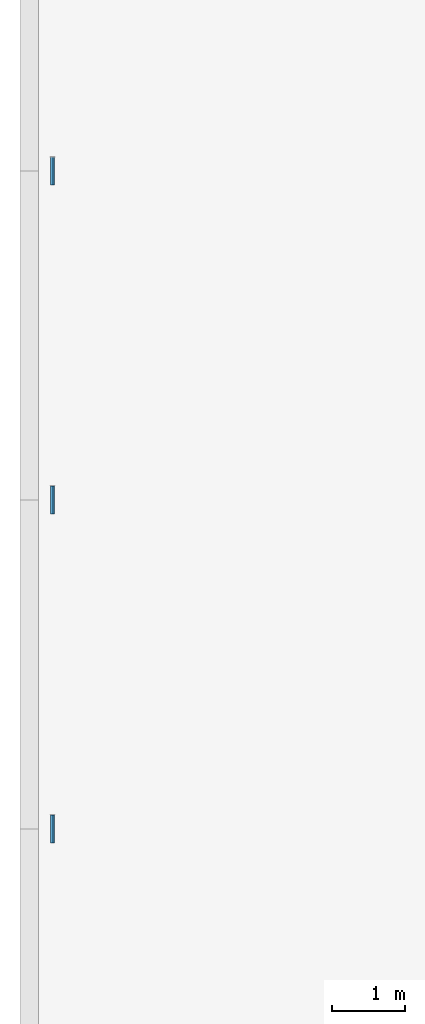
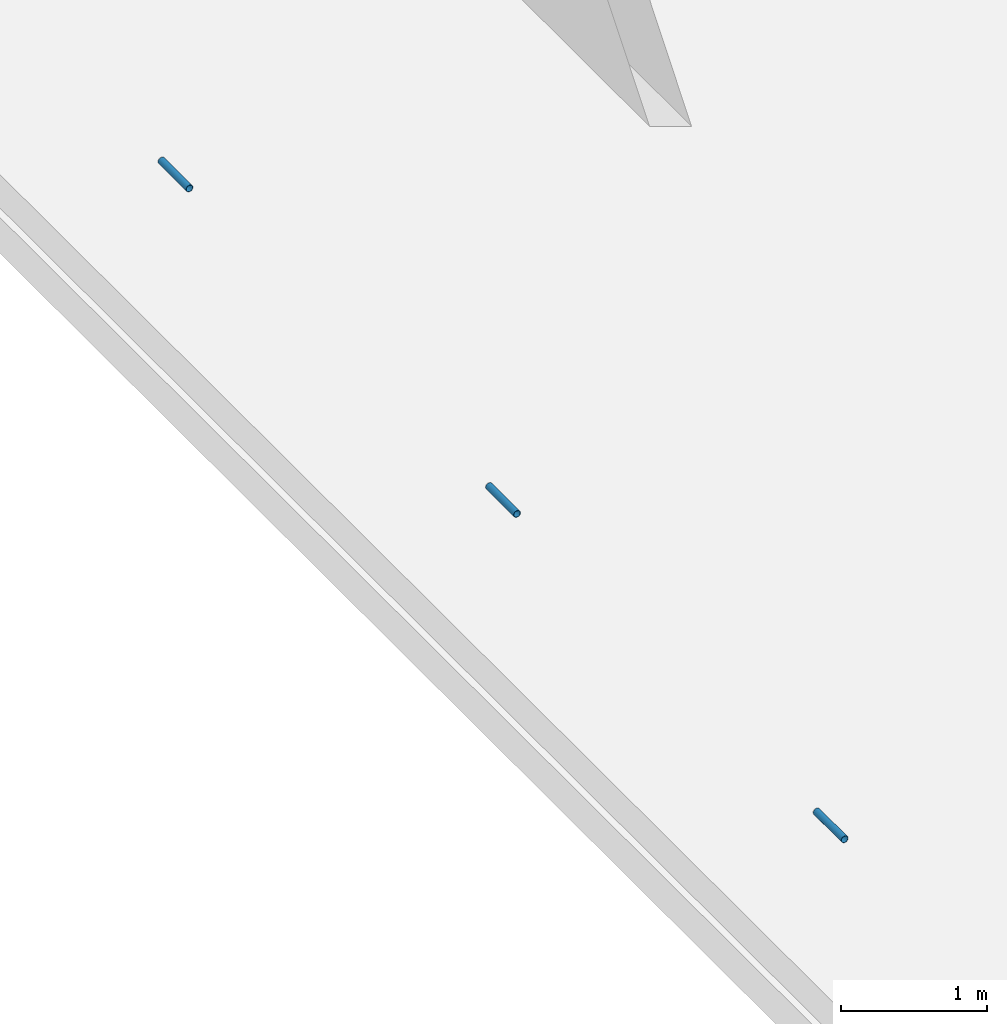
# One storey, part 13 of 230: 3 beams.
"""IFC4X3_ADD2 building model written with IfcOpenShell, lengths in millimetres."""

from ifc_helpers import new_model, si_unit, direction, frame, frame_2d, origin_with_axes, place, context, subcontext, project, spatial, hollow_circle, extrude, material, element, save


model = new_model("IFC4X3_ADD2")

# Units and contexts
model_context = context("Model", 3, precision=1e-05, world=origin_with_axes(), true_north=direction((0.0, 1.0)))
body_context = subcontext(model_context, "Body", "Model", "MODEL_VIEW")
ifc_project = project(units=[si_unit("LENGTHUNIT", "METRE", prefix="MILLI"), si_unit("AREAUNIT", "SQUARE_METRE"), si_unit("VOLUMEUNIT", "CUBIC_METRE"), si_unit("PLANEANGLEUNIT", "RADIAN"), si_unit("TIMEUNIT", "SECOND"), si_unit("MASSUNIT", "GRAM")], contexts=[model_context])

# Site, building, storey
site_placement = place(None, origin_with_axes())
site = spatial("IfcSite", under=ifc_project, at=site_placement, Name="Site", CompositionType="ELEMENT")
building_placement = place(site_placement, origin_with_axes())
building = spatial("IfcBuilding", under=site, at=building_placement, Name="IFC Building Story")
storey_placement = place(building_placement, origin_with_axes())
storey = spatial("IfcBuildingStorey", under=building, at=storey_placement, Name="ETAGE 00 (0)", Elevation=0.0)

# Beams
ifc_material = material(Name="STEEL/Accessory_PVC")
for number, where, z_axis, x_axis, name in (
    (1, (4961.18977737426, 4308.000202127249, 1190.0), (0.0, 1.0, 0.0), (1.0, 0.0, 0.0), "PS13"),
    (2, (4961.189777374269, 8807.99972529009, 1190.0), (0.0, 1.0, 0.0), (1.0, 0.0, 0.0), "PS13"),
):
    element("IfcBeam", number, at=place(storey_placement, frame(where, z_axis=z_axis, x_axis=x_axis)), inside=storey, material=ifc_material, Name=name, ObjectType="O56*3", context=body_context, shape_type="SweptSolid", body=[
        extrude(hollow_circle(Radius=28.0, WallThickness=3.0, at=frame_2d((0.0, 5.95523630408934e-12), x_axis=(1.0, 0.0))), origin_with_axes(), (0.0, 0.0, 1.0), 384.0),
    ])
beam_placement = place(storey_placement, frame((4961.189777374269, 13307.9997252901, 1190.0), z_axis=(0.0, 1.0, 0.0), x_axis=(1.0, 0.0, 0.0)))
element("IfcBeam", 3, at=beam_placement, inside=storey, material=ifc_material, Name="PS13", ObjectType="O56*3", context=body_context, shape_type="SweptSolid", body=[
    extrude(hollow_circle(Radius=28.0, WallThickness=3.0, at=frame_2d((0.0, 5.95523630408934e-12), x_axis=(1.0, 0.0))), origin_with_axes(), (0.0, 0.0, 1.0), 383.9999999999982),
])

save(model, "model.ifc")
